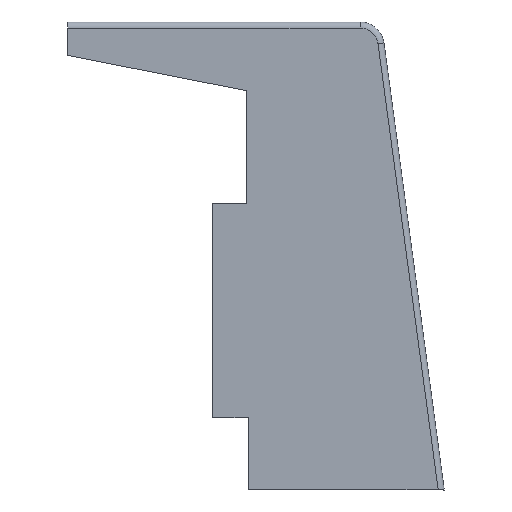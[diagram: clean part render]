
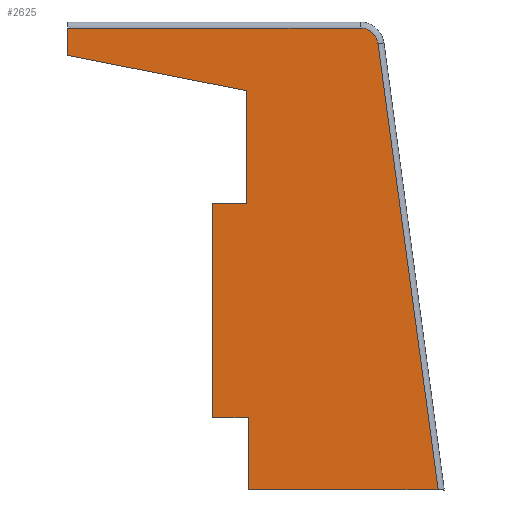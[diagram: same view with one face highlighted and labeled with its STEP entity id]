
A CAD part, front view. The second image highlights one B-rep face of the part: STEP entity #2625.
In plain terms, the highlighted planar face has unit normal (0, -1, 0).
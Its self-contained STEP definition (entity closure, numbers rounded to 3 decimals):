
#229 = EDGE_CURVE ( 'NONE', #2827, #1142, #2380, .T. ) ;
#235 = VERTEX_POINT ( 'NONE', #1083 ) ;
#247 = EDGE_CURVE ( 'NONE', #1497, #2250, #2600, .T. ) ;
#261 = FACE_OUTER_BOUND ( 'NONE', #1873, .T. ) ;
#272 = ORIENTED_EDGE ( 'NONE', *, *, #2533, .F. ) ;
#327 = EDGE_CURVE ( 'NONE', #2100, #2063, #1524, .T. ) ;
#350 = LINE ( 'NONE', #411, #575 ) ;
#411 = CARTESIAN_POINT ( 'NONE',  ( 10.533, -10.675, 46.525 ) ) ;
#516 = DIRECTION ( 'NONE',  ( 0., 1., 0. ) ) ;
#575 = VECTOR ( 'NONE', #590, 1000. ) ;
#590 = DIRECTION ( 'NONE',  ( -1., 0., 0. ) ) ;
#616 = CARTESIAN_POINT ( 'NONE',  ( 25.533, -10.675, 14.116 ) ) ;
#645 = VERTEX_POINT ( 'NONE', #1932 ) ;
#693 = CARTESIAN_POINT ( 'NONE',  ( 34.835, -10.675, 45.025 ) ) ;
#750 = LINE ( 'NONE', #2749, #1380 ) ;
#753 = CARTESIAN_POINT ( 'NONE',  ( 10.533, -10.675, 48.116 ) ) ;
#786 = LINE ( 'NONE', #753, #1490 ) ;
#935 = LINE ( 'NONE', #969, #3183 ) ;
#953 = ORIENTED_EDGE ( 'NONE', *, *, #327, .T. ) ;
#969 = CARTESIAN_POINT ( 'NONE',  ( 36.103, -10.675, 46.844 ) ) ;
#1063 = CARTESIAN_POINT ( 'NONE',  ( 25.533, -10.675, 14.116 ) ) ;
#1083 = CARTESIAN_POINT ( 'NONE',  ( 25.433, -10.675, 41.313 ) ) ;
#1142 = VERTEX_POINT ( 'NONE', #2991 ) ;
#1234 = DIRECTION ( 'NONE',  ( -0.981, 0., 0.193 ) ) ;
#1264 = PLANE ( 'NONE',  #1859 ) ;
#1269 = EDGE_CURVE ( 'NONE', #1142, #2812, #2884, .T. ) ;
#1340 = EDGE_CURVE ( 'NONE', #2063, #1554, #350, .T. ) ;
#1380 = VECTOR ( 'NONE', #1711, 1000. ) ;
#1400 = DIRECTION ( 'NONE',  ( -1., 0., 0. ) ) ;
#1402 = CARTESIAN_POINT ( 'NONE',  ( 25.533, -10.675, 8.116 ) ) ;
#1430 = DIRECTION ( 'NONE',  ( 0., -1., 0. ) ) ;
#1432 = CARTESIAN_POINT ( 'NONE',  ( 25.433, -10.675, 32.116 ) ) ;
#1489 = CARTESIAN_POINT ( 'NONE',  ( 34.835, -10.675, 46.525 ) ) ;
#1490 = VECTOR ( 'NONE', #2043, 1000. ) ;
#1497 = VERTEX_POINT ( 'NONE', #2463 ) ;
#1504 = CARTESIAN_POINT ( 'NONE',  ( 25.433, -10.675, 31.916 ) ) ;
#1524 = CIRCLE ( 'NONE', #2695, 1.5 ) ;
#1554 = VERTEX_POINT ( 'NONE', #3102 ) ;
#1566 = ORIENTED_EDGE ( 'NONE', *, *, #3062, .F. ) ;
#1579 = DIRECTION ( 'NONE',  ( -1., 0., 0. ) ) ;
#1649 = DIRECTION ( 'NONE',  ( 0., 0., 1. ) ) ;
#1683 = VECTOR ( 'NONE', #2715, 1000. ) ;
#1711 = DIRECTION ( 'NONE',  ( 1., 0., 0. ) ) ;
#1729 = EDGE_CURVE ( 'NONE', #2812, #1497, #2895, .T. ) ;
#1762 = CARTESIAN_POINT ( 'NONE',  ( 25.433, -10.675, 41.313 ) ) ;
#1795 = EDGE_CURVE ( 'NONE', #2129, #235, #3057, .T. ) ;
#1804 = EDGE_CURVE ( 'NONE', #2827, #2100, #935, .T. ) ;
#1834 = ORIENTED_EDGE ( 'NONE', *, *, #1795, .F. ) ;
#1859 = AXIS2_PLACEMENT_3D ( 'NONE', #2794, #516, #2282 ) ;
#1873 = EDGE_LOOP ( 'NONE', ( #272, #1834, #3103, #2994, #3253, #2042, #2787, #2698, #953, #2147, #1566 ) ) ;
#1915 = CARTESIAN_POINT ( 'NONE',  ( 41.327, -10.675, 8.116 ) ) ;
#1932 = CARTESIAN_POINT ( 'NONE',  ( 10.533, -10.675, 44.25 ) ) ;
#1935 = DIRECTION ( 'NONE',  ( 0., 0., 1. ) ) ;
#2008 = CARTESIAN_POINT ( 'NONE',  ( 36.321, -10.675, 45.226 ) ) ;
#2042 = ORIENTED_EDGE ( 'NONE', *, *, #1269, .F. ) ;
#2043 = DIRECTION ( 'NONE',  ( 0., 0., 1. ) ) ;
#2063 = VERTEX_POINT ( 'NONE', #1489 ) ;
#2077 = CARTESIAN_POINT ( 'NONE',  ( 22.583, -10.675, 31.916 ) ) ;
#2100 = VERTEX_POINT ( 'NONE', #2008 ) ;
#2101 = CARTESIAN_POINT ( 'NONE',  ( 22.583, -10.675, 32.116 ) ) ;
#2129 = VERTEX_POINT ( 'NONE', #1504 ) ;
#2147 = ORIENTED_EDGE ( 'NONE', *, *, #1340, .T. ) ;
#2165 = VECTOR ( 'NONE', #1579, 1000. ) ;
#2209 = DIRECTION ( 'NONE',  ( -0.134, 0., 0.991 ) ) ;
#2249 = LINE ( 'NONE', #1762, #3026 ) ;
#2250 = VERTEX_POINT ( 'NONE', #2077 ) ;
#2276 = VECTOR ( 'NONE', #1400, 1000. ) ;
#2282 = DIRECTION ( 'NONE',  ( 0., 0., 1. ) ) ;
#2363 = CARTESIAN_POINT ( 'NONE',  ( 45.533, -10.675, 8.116 ) ) ;
#2380 = LINE ( 'NONE', #2363, #2165 ) ;
#2463 = CARTESIAN_POINT ( 'NONE',  ( 22.583, -10.675, 14.116 ) ) ;
#2510 = EDGE_CURVE ( 'NONE', #2250, #2129, #750, .T. ) ;
#2533 = EDGE_CURVE ( 'NONE', #235, #645, #2249, .T. ) ;
#2600 = LINE ( 'NONE', #2101, #3013 ) ;
#2625 = ADVANCED_FACE ( 'NONE', ( #261 ), #1264, .F. ) ;
#2695 = AXIS2_PLACEMENT_3D ( 'NONE', #693, #1430, #1935 ) ;
#2698 = ORIENTED_EDGE ( 'NONE', *, *, #1804, .T. ) ;
#2702 = VECTOR ( 'NONE', #1649, 1000. ) ;
#2715 = DIRECTION ( 'NONE',  ( 0., 0., 1. ) ) ;
#2749 = CARTESIAN_POINT ( 'NONE',  ( 25.233, -10.675, 31.916 ) ) ;
#2787 = ORIENTED_EDGE ( 'NONE', *, *, #229, .F. ) ;
#2794 = CARTESIAN_POINT ( 'NONE',  ( 45.533, -10.675, 48.116 ) ) ;
#2812 = VERTEX_POINT ( 'NONE', #1063 ) ;
#2827 = VERTEX_POINT ( 'NONE', #1915 ) ;
#2884 = LINE ( 'NONE', #1402, #2702 ) ;
#2895 = LINE ( 'NONE', #616, #2276 ) ;
#2991 = CARTESIAN_POINT ( 'NONE',  ( 25.533, -10.675, 8.116 ) ) ;
#2994 = ORIENTED_EDGE ( 'NONE', *, *, #247, .F. ) ;
#3013 = VECTOR ( 'NONE', #3112, 1000. ) ;
#3026 = VECTOR ( 'NONE', #1234, 1000. ) ;
#3057 = LINE ( 'NONE', #1432, #1683 ) ;
#3062 = EDGE_CURVE ( 'NONE', #645, #1554, #786, .T. ) ;
#3102 = CARTESIAN_POINT ( 'NONE',  ( 10.533, -10.675, 46.525 ) ) ;
#3103 = ORIENTED_EDGE ( 'NONE', *, *, #2510, .F. ) ;
#3112 = DIRECTION ( 'NONE',  ( 0., 0., 1. ) ) ;
#3183 = VECTOR ( 'NONE', #2209, 1000. ) ;
#3253 = ORIENTED_EDGE ( 'NONE', *, *, #1729, .F. ) ;
